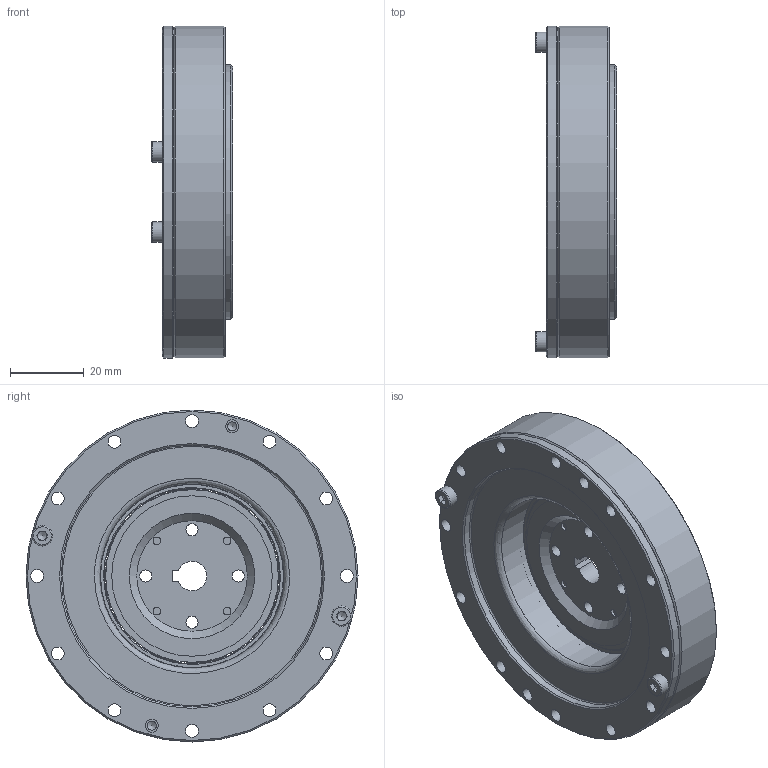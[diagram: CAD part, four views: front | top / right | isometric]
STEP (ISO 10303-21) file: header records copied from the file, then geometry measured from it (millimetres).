
FILE_DESCRIPTION (( 'STEP AP203' ), '1' );
FILE_NAME ('LHD-20-XXX-C-I.STEP', '2025-01-08T10:30:51', ( '' ), ( '' ), 'SwSTEP 2.0', 'SolidWorks 2023', '' );
FILE_SCHEMA (( 'CONFIG_CONTROL_DESIGN' ));
Length unit declared in the file: metre
Products named in the file (1): LHD-20-XXX-C-I
Bounding box: 22 x 90 x 90 mm (x, y, z)
Volume: 67776.7 mm3; surface area: 68412.5 mm2
Topology: 45 solids, 45 shells, 686 faces, 1658 edges, 1052 vertices
Faces by surface type: plane 309, cylinder 209, cone 107, bspline 61
Full cylindrical faces by diameter (mm): 2.05 x4, 2.5 x26, 2.9 x4, 3 x8, 3.3 x4, 3.4 x6, 3.5 x40, 4.5 x4, 4.7 x4, 5.5 x8, 6 x6, 20 x2, 34 x2, 36 x1, 36.998 x1, 37 x1, 38.5 x1, 39 x1, 39.499 x2, 40.17 x1, 43.5 x1, 46.83 x1, 47.507 x2, 50 x2, 50.6 x1, 51.398 x1, 52.332 x1, 53 x2, 53.2 x1, 55 x2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
Entity records: 21117 total; most frequent: CARTESIAN_POINT 6796, DIRECTION 3052, ORIENTED_EDGE 2466, AXIS2_PLACEMENT_3D 1307, EDGE_CURVE 1233, EDGE_LOOP 1118, VERTEX_POINT 925, FACE_OUTER_BOUND 863
